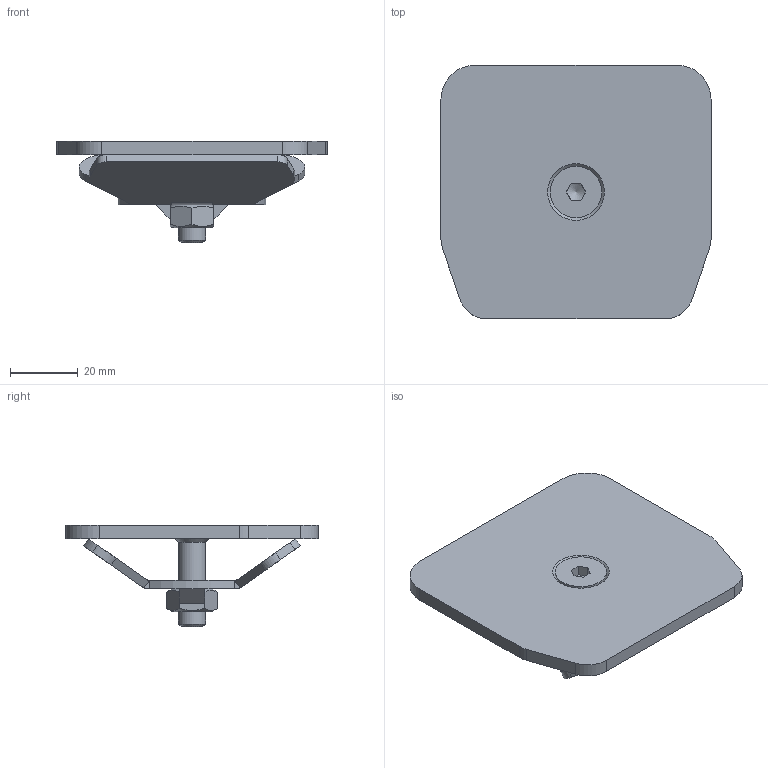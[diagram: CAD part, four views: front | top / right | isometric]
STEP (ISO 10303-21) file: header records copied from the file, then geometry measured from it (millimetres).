
FILE_DESCRIPTION(/* description */ ('Laufrohrabschluss Nr.4'),/* implementation_level */ '2;1');
FILE_NAME(/* name */ 'Q:\sge-ma\Produktmanagement-STB\STB\Workspace\TraceParts\Laufrohrabschluss\010337054.stp',/* time_stamp */ '2018-03-05T08:55:37+01:00',/* author */ ('avschreier'),/* organization */ (''),/* preprocessor_version */ 'ST-DEVELOPER v16.1',/* originating_system */ 'Autodesk Inventor 2016',/* authorisation */ '');
FILE_SCHEMA (('CONFIG_CONTROL_DESIGN'));
Length unit declared in the file: millimetre
Products named in the file (6): 010337054_Schweißnähte; 337000275; 337000274; DIN_EN_ISO_4032-M8_en; DIN_EN_ISO_10642-M8x30_en; 010337054
Assembly tree (5 placements, depth 2):
  010337054
    010337054_Schweißnähte
    337000275
    337000274
    DIN_EN_ISO_4032-M8_en
    DIN_EN_ISO_10642-M8x30_en
Bounding box: 80 x 75 x 30 mm (x, y, z)
Volume: 33772.9 mm3; surface area: 22526.7 mm2
Topology: 6 solids, 6 shells, 116 faces, 291 edges, 189 vertices
Faces by surface type: plane 84, cylinder 24, cone 8
Full cylindrical faces by diameter (mm): 6.647 x1, 8 x1, 8.5 x1, 15.24 x1
Entity records: 3499 total; most frequent: CARTESIAN_POINT 627, DIRECTION 568, ORIENTED_EDGE 550, EDGE_CURVE 275, LINE 204, VECTOR 204, VERTEX_POINT 183, AXIS2_PLACEMENT_3D 182
